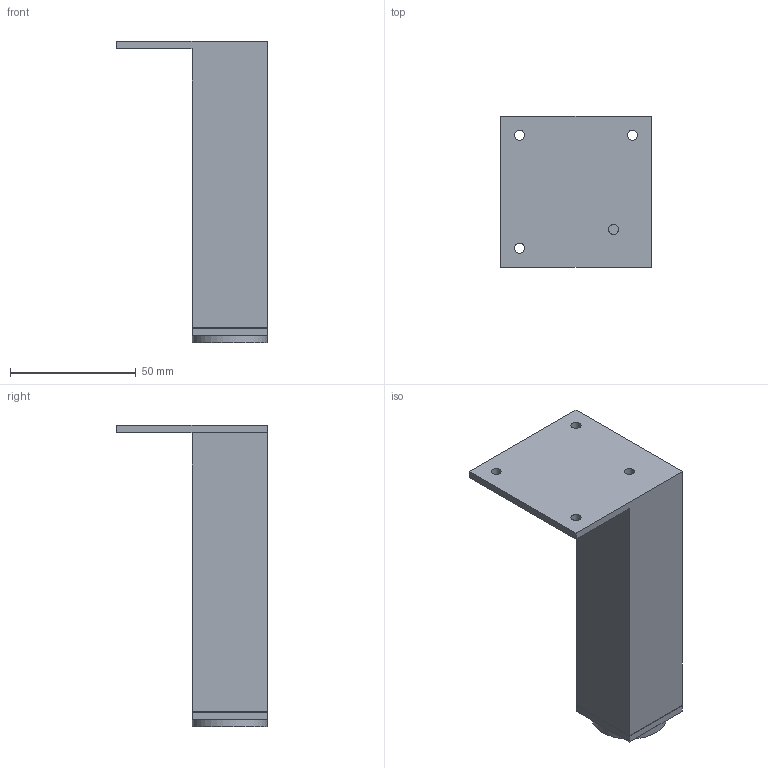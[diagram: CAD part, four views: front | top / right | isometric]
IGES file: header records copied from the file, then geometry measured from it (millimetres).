
Start section: Data from Parasolid IGES Translator 15.0.47, Copyright(c) 2006 Siemens P LM Software. All Rights Reserved.
Global section: file name: 46489.igs; native system:  By UGS Corp.; preprocessor: XPlus GENERIC/IGES 3.0; author: Noname; organization: Noname; date: 20140121.135458; units: millimetre
Bounding box: 60 x 60 x 120 mm (x, y, z)
Surface area: 36141.1 mm2 (no closed solid volume)
Topology: 0 solids, 0 shells, 34 faces, 158 edges, 149 vertices
Faces by surface type: extrusion 29, revolution 5
